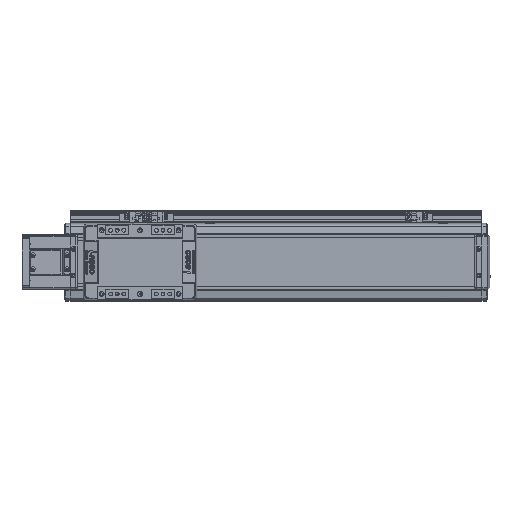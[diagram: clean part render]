
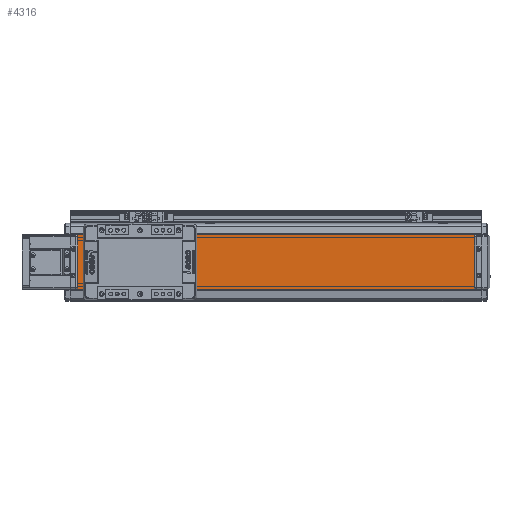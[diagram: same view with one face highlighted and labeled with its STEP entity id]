
A CAD part, top view. The second image highlights one B-rep face of the part: STEP entity #4316.
In plain terms, the highlighted planar face has unit normal (0, 0, 1).
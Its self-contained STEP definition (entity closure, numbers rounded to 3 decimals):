
#4316=ADVANCED_FACE('',(#10862),#10863,.T.);
#10862=FACE_OUTER_BOUND('',#20599,.T.);
#10863=PLANE('',#20600);
#20599=EDGE_LOOP('',(#32905,#32906,#32907,#32908));
#20600=AXIS2_PLACEMENT_3D('',#32909,#32910,#32911);
#32905=ORIENTED_EDGE('',*,*,#57876,.T.);
#32906=ORIENTED_EDGE('',*,*,#57877,.F.);
#32907=ORIENTED_EDGE('',*,*,#57878,.T.);
#32908=ORIENTED_EDGE('',*,*,#56056,.T.);
#32909=CARTESIAN_POINT('',(-580.,0.,20.15));
#32910=DIRECTION('',(0.,0.,1.0));
#32911=DIRECTION('',(0.,-1.0,0.));
#56056=EDGE_CURVE('',#67208,#67206,#67209,.T.);
#57876=EDGE_CURVE('',#67206,#70355,#70356,.T.);
#57877=EDGE_CURVE('',#70357,#70355,#70358,.T.);
#57878=EDGE_CURVE('',#70357,#67208,#70359,.T.);
#67206=VERTEX_POINT('',#83041);
#67208=VERTEX_POINT('',#83044);
#67209=LINE('',#83045,#83046);
#70355=VERTEX_POINT('',#87290);
#70356=LINE('',#87291,#87292);
#70357=VERTEX_POINT('',#87293);
#70358=LINE('',#87294,#87295);
#70359=LINE('',#87296,#87297);
#83041=CARTESIAN_POINT('',(-50.,-35.,20.15));
#83044=CARTESIAN_POINT('',(-580.,-35.,20.15));
#83045=CARTESIAN_POINT('',(-580.,-35.,20.15));
#83046=VECTOR('',#103778,10.0);
#87290=CARTESIAN_POINT('',(-50.,35.,20.15));
#87291=CARTESIAN_POINT('',(-50.,35.,20.15));
#87292=VECTOR('',#106379,10.0);
#87293=CARTESIAN_POINT('',(-580.0,35.,20.15));
#87294=CARTESIAN_POINT('',(-580.0,35.,20.15));
#87295=VECTOR('',#106380,10.0);
#87296=CARTESIAN_POINT('',(-580.0,35.,20.15));
#87297=VECTOR('',#106381,10.0);
#103778=DIRECTION('',(1.0,0.,0.));
#106379=DIRECTION('',(0.,1.0,0.));
#106380=DIRECTION('',(1.0,0.,0.));
#106381=DIRECTION('',(0.,-1.0,0.));
